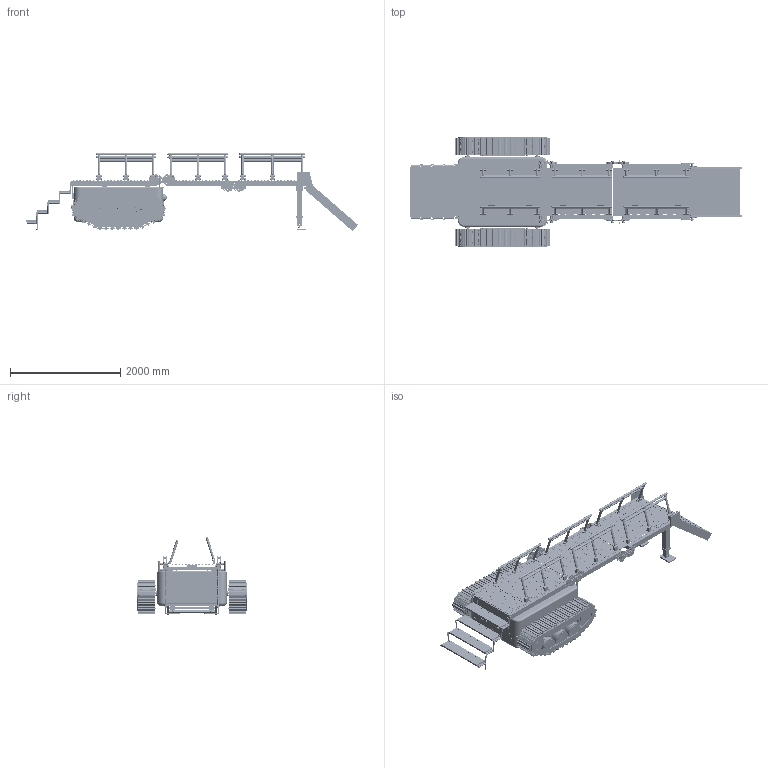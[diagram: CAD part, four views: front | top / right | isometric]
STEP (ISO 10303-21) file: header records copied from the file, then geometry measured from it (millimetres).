
FILE_DESCRIPTION(('Open CASCADE Model'),'2;1');
FILE_NAME('Open CASCADE Shape Model','2026-11-24T20:14:38',('Author'),( 'Open CASCADE'),'Open CASCADE STEP processor 7.9','Open CASCADE 7.9' ,'Unknown');
FILE_SCHEMA(('AUTOMOTIVE_DESIGN { 1 0 10303 214 1 1 1 1 }'));
Length unit declared in the file: centimetre
Products named in the file (676): AKORA_C14a_CLOSING_STAGE_01; 01_MAIN_BODY; BODY_LOWER; BODY_LOWER_TUB; BODY_JOINT_FLANGE_INNER; BODY_UPPER; BODY_UPPER_TUB; BODY_JOINT_BEAD; COVER_GASKET; COVER_GASKET_EPDM_10x8; PEDESTAL_GROMMET_600_L; PEDESTAL_GROMMET_600_R; PEDESTAL_GROMMET_1380_L; PEDESTAL_GROMMET_1380_R; SERVICE_PANEL_REAR_GASKET; COVER_INTERLOCK; COVER_SEAT_RING_FEMALE; COVER_LOCKS; COVER_QUARTER_TURN_STUD_01; COVER_RECEPTACLE_01; COVER_QUARTER_TURN_STUD_02; COVER_RECEPTACLE_02; COVER_QUARTER_TURN_STUD_03; COVER_RECEPTACLE_03; COVER_QUARTER_TURN_STUD_04; COVER_RECEPTACLE_04; COVER_QUARTER_TURN_STUD_05; COVER_RECEPTACLE_05; COVER_QUARTER_TURN_STUD_06; COVER_RECEPTACLE_06; COVER_QUARTER_TURN_STUD_07; COVER_RECEPTACLE_07; COVER_QUARTER_TURN_STUD_08; COVER_RECEPTACLE_08; COVER_QUARTER_TURN_STUD_09; COVER_RECEPTACLE_09; COVER_QUARTER_TURN_STUD_10; COVER_RECEPTACLE_10; INTERNAL_FRAME; FRAME_RAIL_L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
Assembly tree (743 placements, depth 5):
  AKORA_C14a_CLOSING_STAGE_01
    01_MAIN_BODY
      BODY_LOWER
        BODY_LOWER_TUB
        BODY_JOINT_FLANGE_INNER
      BODY_UPPER
        BODY_UPPER_TUB
        BODY_JOINT_BEAD
      COVER_GASKET
        COVER_GASKET_EPDM_10x8
        PEDESTAL_GROMMET_600_L
        PEDESTAL_GROMMET_600_R
        PEDESTAL_GROMMET_1380_L
        PEDESTAL_GROMMET_1380_R
        SERVICE_PANEL_REAR_GASKET
      COVER_INTERLOCK
        COVER_SEAT_RING_FEMALE
      COVER_LOCKS
        COVER_QUARTER_TURN_STUD_01
        COVER_RECEPTACLE_01
        COVER_QUARTER_TURN_STUD_02
        COVER_RECEPTACLE_02
        COVER_QUARTER_TURN_STUD_03
        COVER_RECEPTACLE_03
        COVER_QUARTER_TURN_STUD_04
        COVER_RECEPTACLE_04
        COVER_QUARTER_TURN_STUD_05
        COVER_RECEPTACLE_05
        COVER_QUARTER_TURN_STUD_06
        COVER_RECEPTACLE_06
        COVER_QUARTER_TURN_STUD_07
        COVER_RECEPTACLE_07
        COVER_QUARTER_TURN_STUD_08
        COVER_RECEPTACLE_08
        COVER_QUARTER_TURN_STUD_09
        COVER_RECEPTACLE_09
        COVER_QUARTER_TURN_STUD_10
        COVER_RECEPTACLE_10
      INTERNAL_FRAME
        FRAME_RAIL_L
        FRAME_RAIL_R
        FRAME_CROSS_1
        FRAME_CROSS_2
        FRAME_CROSS_3
        FRAME_CROSS_4
        FRAME_CROSS_5
        TRACK_MOTOR_PLATE_L
        TRACK_MOTOR_PLATE_R
      MOUNTING_BRACKETS
        FRAME_WALL_BRACKET_L_400
        FRAME_WALL_BRACKET_L_1300
        FRAME_WALL_BRACKET_R_400
        FRAME_WALL_BRACKET_R_1300
        P1_PEDESTAL_600_L
        P1_PEDESTAL_600_R
        P1_PEDESTAL_1380_L
        P1_PEDESTAL_1380_R
        REAR_LANDING_BRACKET_L
        REAR_LANDING_BRACKET_R
      SERVICE_PANELS
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Bounding box: 6027.52 x 1994 x 1419.31 mm (x, y, z)
Volume: 628183892.7 mm3; surface area: 87864523.7 mm2
Topology: 1494 solids, 1498 shells, 16526 faces, 39817 edges, 26536 vertices
Faces by surface type: plane 14101, cylinder 2385, sphere 22, torus 16, revolution 2
Full cylindrical faces by diameter (mm): 8 x18, 9 x20, 9.2 x10, 10 x150, 10.5 x4, 12 x34, 13 x4, 14 x4, 16 x36, 17 x8, 18 x4, 20 x15, 22 x12, 24 x39, 25 x16, 28 x34, 30 x64, 30.6 x40, 32 x22, 34 x36, 36 x4, 37 x54, 40 x96, 41 x8, 42 x54, 44 x11, 48 x24, 56 x2, 60 x5, 62 x4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
Entity records: 931551 total; most frequent: CARTESIAN_POINT 190398, DIRECTION 134825, LINE 95116, VECTOR 95116, ORIENTED_EDGE 69780, PCURVE 69764, DEFINITIONAL_REPRESENTATION 69764, EDGE_CURVE 34882
